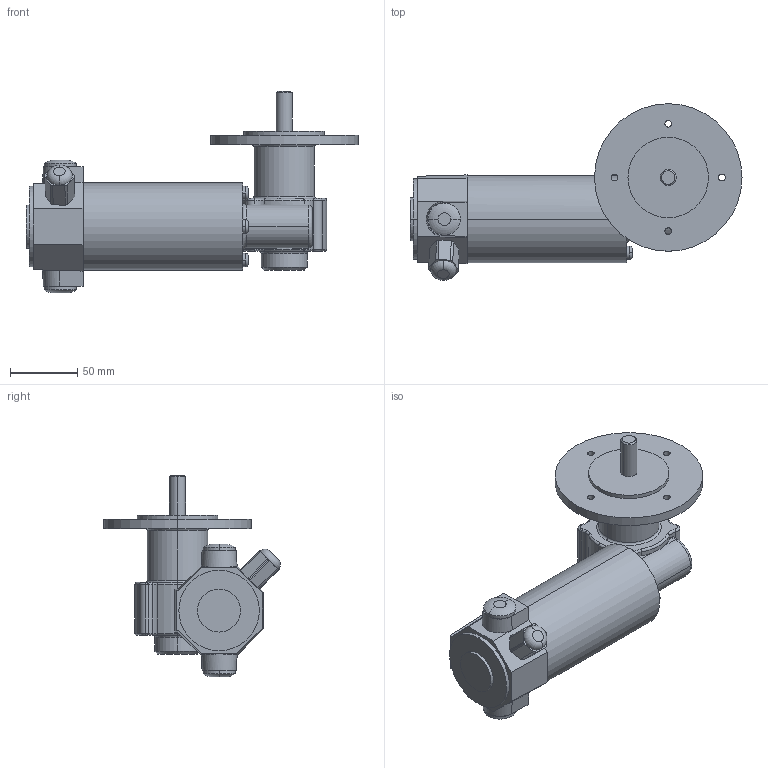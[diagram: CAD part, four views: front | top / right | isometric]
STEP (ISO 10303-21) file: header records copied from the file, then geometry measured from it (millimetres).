
FILE_DESCRIPTION(('OneSpaceDesigner STEP Export'),'2;1');
FILE_NAME('EPG04_GF125.stp','2008-07-02T13:33:06',(''),(''),'OneSpace Designer STEP processor (Jan. 2003) for AP214(CD)(Solid Model)','OneSpace Designer 12.01D 09-Jul-2004 (C) CoCreate Software GmbH','');
FILE_SCHEMA(('AUTOMOTIVE_DESIGN_CC2 {1 2 10303 214 -1 1 5 1}'));
Length unit declared in the file: millimetre
Products named in the file (2): EPG04_GF125
Assembly tree (1 placements, depth 2):
  EPG04_GF125
    EPG04_GF125
Bounding box: 247.5 x 131.58 x 150.5 mm (x, y, z)
Volume: 878297.4 mm3; surface area: 86324.8 mm2
Topology: 1 solids, 1 shells, 209 faces, 503 edges, 311 vertices
Faces by surface type: cylinder 83, torus 72, plane 48, cone 4, bspline 2
Entity records: 7654 total; most frequent: CARTESIAN_POINT 3171, ORIENTED_EDGE 1006, DIRECTION 839, EDGE_CURVE 503, AXIS2_PLACEMENT_3D 346, VERTEX_POINT 311, EDGE_LOOP 232, CIRCLE 210
